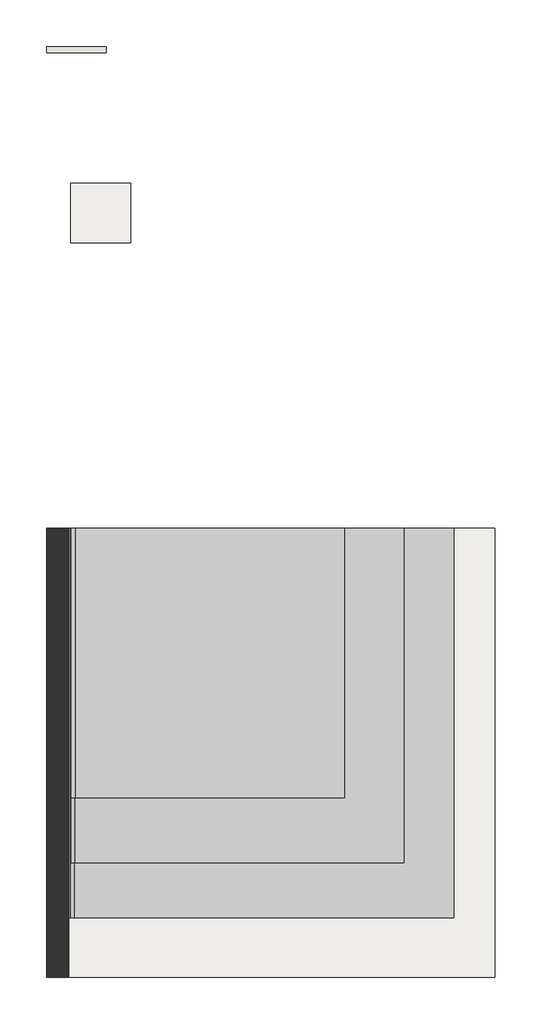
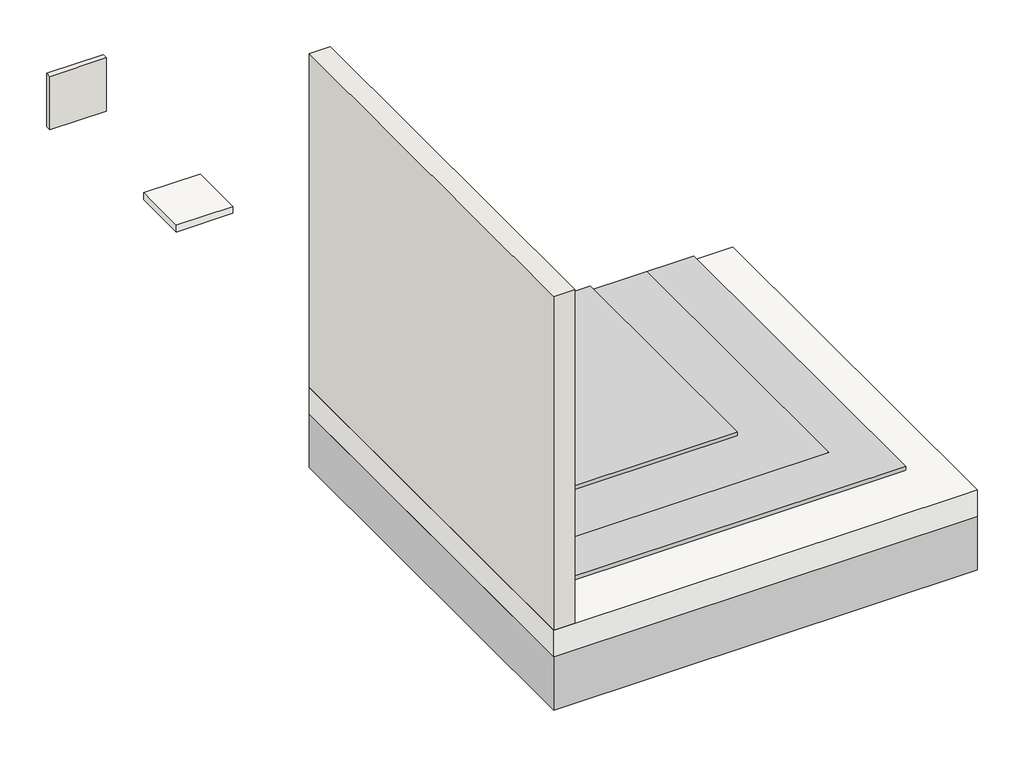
# One storey: 2 slabs, 2 walls, 1 proxy.
"""IFC4 building model written with IfcOpenShell, lengths in millimetres."""

from ifc_helpers import new_model, si_unit, frame, origin, place, context, project, spatial, polyline, outline, extrude, transform, mapped, element, save
from components import generic_models_6a595129

model = new_model("IFC4")

# Units and contexts
model_context = context("Model", 3, world=origin())
ifc_project = project(units=[si_unit("LENGTHUNIT", "METRE", prefix="MILLI")], contexts=[model_context])

# Site, building, storey
site = spatial("IfcSite", under=ifc_project)
building = spatial("IfcBuilding", under=site)
storey = spatial("IfcBuildingStorey", under=building, Name="ARQ Térreo", Elevation=-2.523798)

# Proxy
placement = place(None, origin())
generic_models_shape = generic_models_6a595129(model_context)
element("IfcBuildingElementProxy", 1, Name="IMPER:IMPER:433934 : IMPER:IMPER:433934", ObjectType="IMPER:IMPER:433934 : IMPER:IMPER:433934", at=placement, inside=storey, context=model_context, shape_type="MappedRepresentation", body=[
    mapped(generic_models_shape, transform((0.0, 0.0, 0.0), x_axis=(1.0, 0.0, 0.0), y_axis=(0.0, 1.0, 0.0), z_axis=(0.0, 0.0, 1.0))),
])

# Slabs
element("IfcSlab", 2, ObjectType="IMPH_VP2000", at=placement, inside=storey, context=model_context, shape_type="SweptSolid", body=[
    extrude(outline(polyline([(-339.4717852, 2454.1249925), (60.5282148, 2454.1249925), (60.5282148, 2054.1249925), (-339.4717852, 2054.1249925), (-339.4717852, 2454.1249925)])), frame((0.0, 0.0, -53.523798), z_axis=(0.0, 0.0, 1.0), x_axis=(1.0, 0.0, 0.0)), (0.0, 0.0, 1.0), 51.0),
])
element("IfcSlab", 3, ObjectType="Piso:LAJE CONCRETO", at=placement, inside=storey, context=model_context, shape_type="SweptSolid", body=[
    extrude(outline(polyline([(-501.9704105, 145.8700195), (2498.0295895, 145.8700195), (2498.0295895, -2854.1299805), (-501.9704105, -2854.1299805), (-501.9704105, 145.8700195)])), frame((0.0, 0.0, -202.523798), z_axis=(0.0, 0.0, 1.0), x_axis=(1.0, 0.0, 0.0)), (0.0, 0.0, 1.0), 200.0),
])

# Walls
element("IfcWall", 4, ObjectType="Parede básica:Parede Concreto", at=placement, inside=storey, context=model_context, shape_type="SweptSolid", body=[
    extrude(outline(polyline([(-501.9704105, -2854.1299805), (-501.9704105, 145.8700195), (-351.9704105, 145.8700195), (-351.9704105, -2854.1299805), (-501.9704105, -2854.1299805)])), frame((0.0, 0.0, -2.523798), z_axis=(0.0, 0.0, 1.0), x_axis=(1.0, 0.0, 0.0)), (0.0, 0.0, 1.0), 2500.0),
])
element("IfcWall", 5, ObjectType="IMPV_VP2000", at=placement, inside=storey, context=model_context, shape_type="SweptSolid", body=[
    extrude(outline(polyline([(-101.9704105, 3325.3700195), (-501.9704105, 3325.3700195), (-501.9704105, 3366.3700195), (-101.9704105, 3366.3700195), (-101.9704105, 3325.3700195)])), frame((0.0, 0.0, -2.523798), z_axis=(0.0, 0.0, 1.0), x_axis=(1.0, 0.0, 0.0)), (0.0, 0.0, 1.0), 400.0),
])

save(model, "model.ifc")
